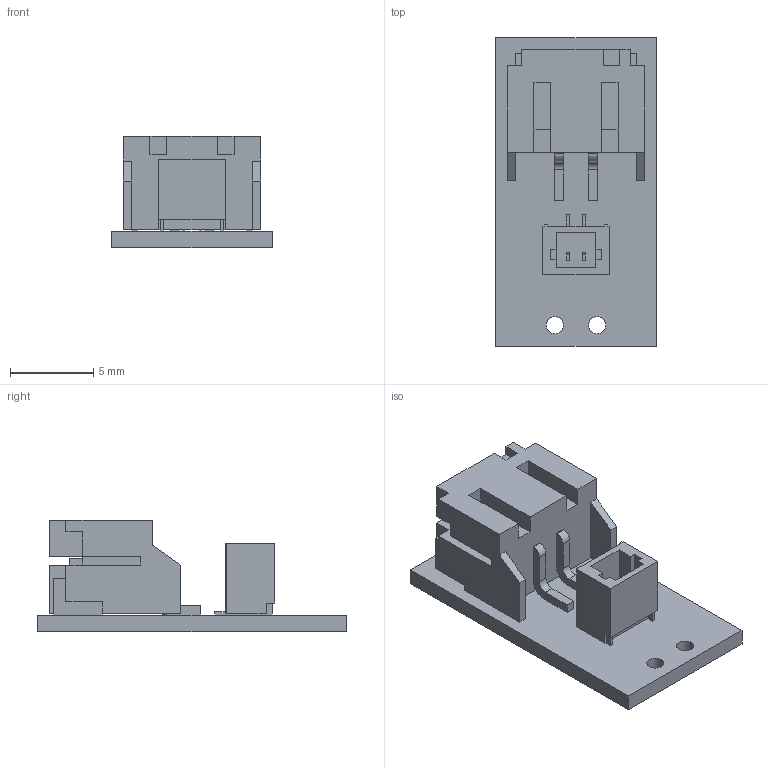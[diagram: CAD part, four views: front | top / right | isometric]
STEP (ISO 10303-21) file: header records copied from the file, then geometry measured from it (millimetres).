
FILE_DESCRIPTION (( 'STEP AP214' ), '1' );
FILE_NAME ('con08a_side_entry.STEP', '2025-08-19T02:35:30', ( '' ), ( '' ), 'SwSTEP 2.0', 'SolidWorks 2025', '' );
FILE_SCHEMA (( 'AUTOMOTIVE_DESIGN' ));
Length unit declared in the file: millimetre
Products named in the file (1): con08a_side_entry
Bounding box: 9.65 x 18.54 x 6.72 mm (x, y, z)
Volume: 378.9 mm3; surface area: 973.1 mm2
Topology: 1 solids, 1 shells, 555 faces, 1519 edges, 1008 vertices
Faces by surface type: plane 351, bspline 194, cylinder 10
Entity records: 31093 total; most frequent: CARTESIAN_POINT 12165, ORIENTED_EDGE 3038, DIRECTION 1875, EDGE_CURVE 1519, LINE 1111, VECTOR 1111, VERTEX_POINT 1008, EDGE_LOOP 617
